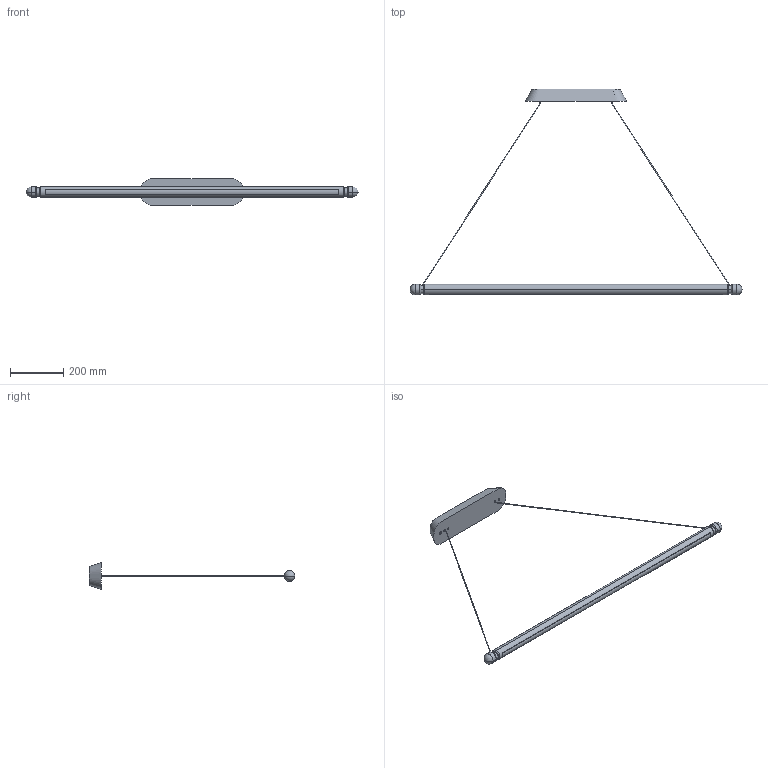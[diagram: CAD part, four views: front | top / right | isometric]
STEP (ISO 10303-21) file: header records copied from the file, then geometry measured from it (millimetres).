
FILE_DESCRIPTION (( 'STEP AP214' ), '1' );
FILE_NAME ('LINEA H.STEP', '2022-09-01T07:14:23', ( '' ), ( '' ), 'SwSTEP 2.0', 'SolidWorks 2016', '' );
FILE_SCHEMA (( 'AUTOMOTIVE_DESIGN' ));
Length unit declared in the file: millimetre
Products named in the file (8): DIFUSOR_LUZ_CARRIL_PIE; LINEA H; ENLACE LATÓN; PLATO TECHO; CABLE_PARA_MONTAJE_1; ENLACE LATÓN CABLE; TERMINAL STANDARD; CUERPO STANDARD
Assembly tree (9 placements, depth 2):
  LINEA H
    CUERPO STANDARD
    ENLACE LATÓN
    ENLACE LATÓN CABLE
    TERMINAL STANDARD  x2
    CABLE_PARA_MONTAJE_1  x2
    PLATO TECHO
    DIFUSOR_LUZ_CARRIL_PIE
Bounding box: 1244 x 770.94 x 100 mm (x, y, z)
Volume: 1815138.6 mm3; surface area: 409248.2 mm2
Topology: 9 solids, 9 shells, 138 faces, 360 edges, 238 vertices
Faces by surface type: cylinder 79, plane 45, torus 8, sphere 4, bspline 2
Entity records: 5168 total; most frequent: CARTESIAN_POINT 1809, DIRECTION 620, ORIENTED_EDGE 608, EDGE_CURVE 304, AXIS2_PLACEMENT_3D 242, VERTEX_POINT 203, EDGE_LOOP 159, LINE 136
